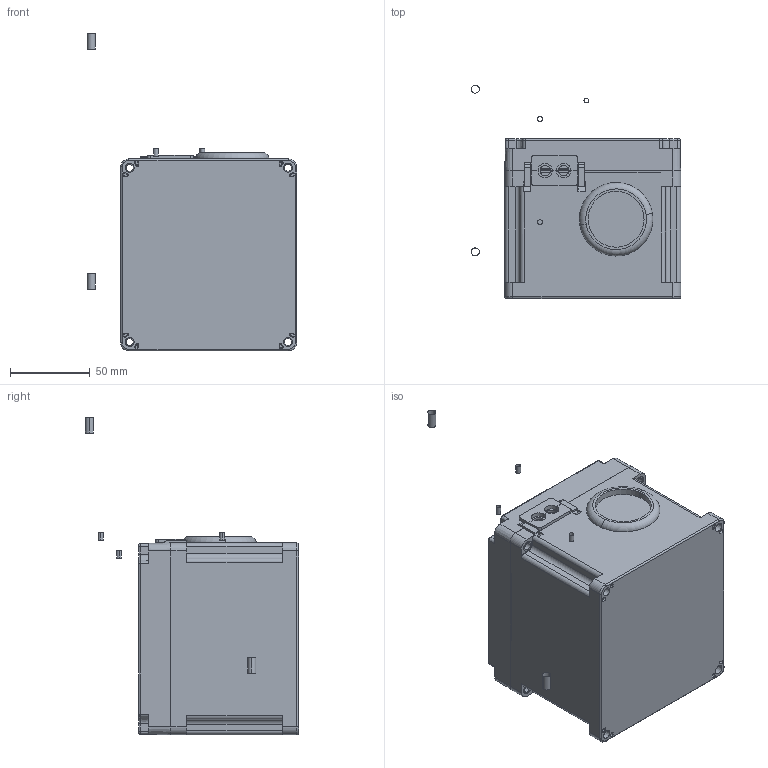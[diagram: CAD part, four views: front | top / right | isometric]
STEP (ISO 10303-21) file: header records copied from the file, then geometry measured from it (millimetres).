
FILE_DESCRIPTION((''),'2;1');
FILE_NAME('YH_16_ASM','2026-05-14T17:55:22',('Administrator'),(''),'CREO PARAMETRIC BY PTC INC, 2022073','CREO PARAMETRIC BY PTC INC, 2022073','');
FILE_SCHEMA(('CONFIG_CONTROL_DESIGN'));
Length unit declared in the file: millimetre
Products named in the file (6): BOX_1; MF; MC_C_1; MFQ_2; MF_3; YH_16_ASM
Assembly tree (6 placements, depth 2):
  YH_16_ASM
    BOX_1
    MF  x2
    MC_C_1
    MFQ_2
    MF_3
Bounding box: 131 x 133.25 x 198.7 mm (x, y, z)
Volume: 216912.6 mm3; surface area: 170585.7 mm2
Topology: 13 solids, 23 shells, 1053 faces, 2863 edges, 1874 vertices
Faces by surface type: plane 583, cylinder 246, cone 142, torus 40, bspline 30, sphere 12
Entity records: 32975 total; most frequent: CARTESIAN_POINT 7283, ORIENTED_EDGE 5410, DIRECTION 5248, EDGE_CURVE 2713, VECTOR 1810, LINE 1810, VERTEX_POINT 1774, AXIS2_PLACEMENT_3D 1719
